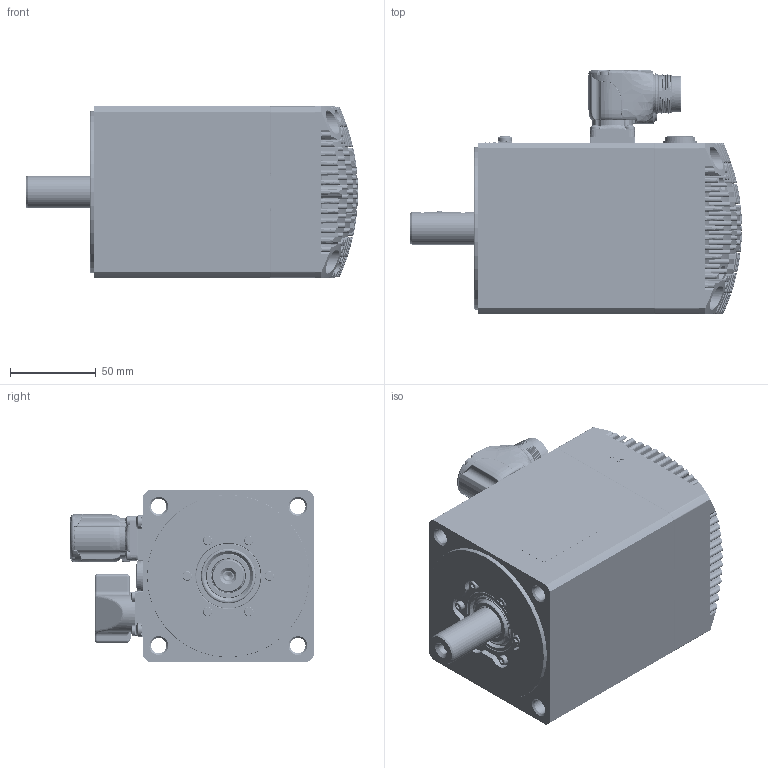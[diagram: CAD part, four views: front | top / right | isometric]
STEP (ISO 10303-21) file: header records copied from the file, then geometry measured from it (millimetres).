
FILE_DESCRIPTION((''),'2;1');
FILE_NAME('32190015651_ASM','2022-04-12T12:20:08',('gabrielec'),(''),'CREO PARAMETRIC BY PTC INC, 2021304','CREO PARAMETRIC BY PTC INC, 2021304','');
FILE_SCHEMA(('AP242_MANAGED_MODEL_BASED_3D_ENGINEERING_MIM_LF { 1 0 10303 442 1 1 4 }'));
Products named in the file (37): 52580N-0; 32149915564_ASM; 22320015067; 50938N-0; 22320015067_ASM; 32050015011_ASM; 32060015506_ASM; 51941N-1; 32090015023_ASM; NRG_001; M3X16_GBT70-1; GB_T862_1; M4X8_GBT818_CU; 32159915174_ASM; 22160015160; MENTOR-1292_9013; CEMBRE_FD9; CEMBRE_2053M16N; 32150015177_ASM; PHOENIX-1605586; 33000015098_AF9_ASM; UNI7687_M3X8_INOX; CAN_OPEN; 33200203857_AF4_ASM; 31500203857_AF4_ASM; 50941N-0; UNI7687_M3X6_INOX; UNI5931_M3X6_INOX; 22210015021; 32150015175_ASM; UNI5931_M4X16; LIP_SEAL_TW05; 22250015024; 22250015127; 43500000229; 43500000050; 32190015651_ASM
Assembly tree (64 placements, depth 7):
  32190015651_ASM
    32159915174_ASM
      32149915564_ASM
        52580N-0
      32090015023_ASM
        32060015506_ASM
          32050015011_ASM
            22320015067_ASM
              22320015067
              50938N-0
        51941N-1
      NRG_001  x6
      M3X16_GBT70-1  x6
      GB_T862_1  x2
      M4X8_GBT818_CU  x2
    32150015177_ASM
      22160015160
      MENTOR-1292_9013  x8
      CEMBRE_FD9
      CEMBRE_2053M16N
    33000015098_AF9_ASM
      PHOENIX-1605586
    UNI7687_M3X8_INOX  x4
    31500203857_AF4_ASM
      33200203857_AF4_ASM
        CAN_OPEN
    50941N-0  x2
    UNI7687_M3X6_INOX  x3
    UNI5931_M3X6_INOX
    32150015175_ASM
      22210015021
    UNI5931_M4X16  x4
    LIP_SEAL_TW05
    22250015024
    22250015127
    43500000229
    43500000050
Bounding box: 194 x 142.41 x 100.8 mm (x, y, z)
Volume: 574334.3 mm3; surface area: 278045.7 mm2
Topology: 73 solids, 101 shells, 4550 faces, 11426 edges, 7241 vertices
Faces by surface type: plane 1574, cylinder 1084, cone 661, bspline 612, torus 354, sphere 243, revolution 11, extrusion 11
Entity records: 198140 total; most frequent: CARTESIAN_POINT 67839, ORIENTED_EDGE 20156, DIRECTION 18268, PRESENTATION_STYLE_ASSIGNMENT 10544, EDGE_CURVE 10133, STYLED_ITEM 10130, CURVE_STYLE 10059, AXIS2_PLACEMENT_3D 7080
